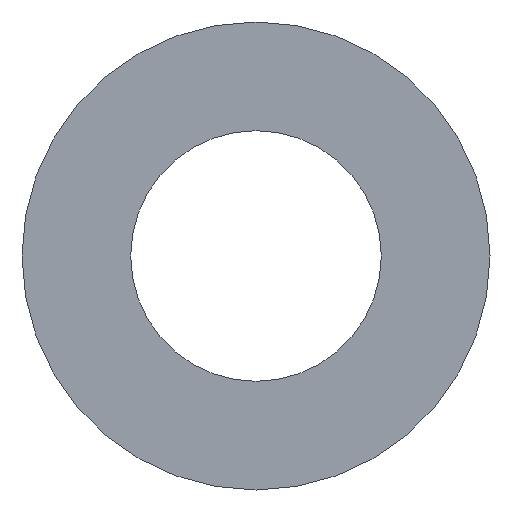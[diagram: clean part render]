
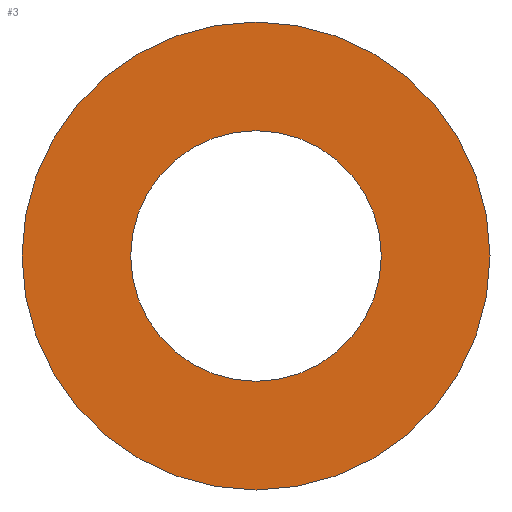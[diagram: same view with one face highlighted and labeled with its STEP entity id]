
A CAD part, front view. The second image highlights one B-rep face of the part: STEP entity #3.
In plain terms, the highlighted planar face has unit normal (0, -1, 0).
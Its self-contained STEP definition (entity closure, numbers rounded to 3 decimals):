
#2 = CIRCLE ( 'NONE', #204, 7.5 ) ;
#3 = ADVANCED_FACE ( 'NONE', ( #158, #90 ), #115, .T. ) ;
#16 = EDGE_CURVE ( 'NONE', #185, #211, #2, .T. ) ;
#20 = EDGE_CURVE ( 'NONE', #211, #185, #59, .T. ) ;
#30 = CARTESIAN_POINT ( 'NONE',  ( 0., -2.5, -14. ) ) ;
#40 = AXIS2_PLACEMENT_3D ( 'NONE', #223, #144, #51 ) ;
#46 = DIRECTION ( 'NONE',  ( 0., 0., 1. ) ) ;
#51 = DIRECTION ( 'NONE',  ( 0., 0., 1. ) ) ;
#53 = AXIS2_PLACEMENT_3D ( 'NONE', #119, #60, #46 ) ;
#55 = AXIS2_PLACEMENT_3D ( 'NONE', #149, #189, #96 ) ;
#58 = EDGE_CURVE ( 'NONE', #238, #84, #209, .T. ) ;
#59 = CIRCLE ( 'NONE', #53, 7.5 ) ;
#60 = DIRECTION ( 'NONE',  ( 0., 1., 0. ) ) ;
#82 = DIRECTION ( 'NONE',  ( 0., -1., 0. ) ) ;
#84 = VERTEX_POINT ( 'NONE', #88 ) ;
#86 = ORIENTED_EDGE ( 'NONE', *, *, #16, .T. ) ;
#88 = CARTESIAN_POINT ( 'NONE',  ( 0., -2.5, 14. ) ) ;
#90 = FACE_OUTER_BOUND ( 'NONE', #109, .T. ) ;
#96 = DIRECTION ( 'NONE',  ( 0., 0., 1. ) ) ;
#109 = EDGE_LOOP ( 'NONE', ( #136, #232 ) ) ;
#114 = CIRCLE ( 'NONE', #55, 14. ) ;
#115 = PLANE ( 'NONE',  #156 ) ;
#119 = CARTESIAN_POINT ( 'NONE',  ( 0., -2.5, 0. ) ) ;
#134 = DIRECTION ( 'NONE',  ( 0., 0., 1. ) ) ;
#136 = ORIENTED_EDGE ( 'NONE', *, *, #242, .F. ) ;
#144 = DIRECTION ( 'NONE',  ( 0., 1., 0. ) ) ;
#149 = CARTESIAN_POINT ( 'NONE',  ( 0., -2.5, 0. ) ) ;
#156 = AXIS2_PLACEMENT_3D ( 'NONE', #173, #82, #212 ) ;
#158 = FACE_BOUND ( 'NONE', #220, .T. ) ;
#170 = CARTESIAN_POINT ( 'NONE',  ( 0., -2.5, 0. ) ) ;
#173 = CARTESIAN_POINT ( 'NONE',  ( 0., -2.5, 14. ) ) ;
#181 = CARTESIAN_POINT ( 'NONE',  ( 0., -2.5, -7.5 ) ) ;
#183 = CARTESIAN_POINT ( 'NONE',  ( 0., -2.5, 7.5 ) ) ;
#185 = VERTEX_POINT ( 'NONE', #183 ) ;
#189 = DIRECTION ( 'NONE',  ( 0., 1., 0. ) ) ;
#196 = DIRECTION ( 'NONE',  ( 0., 1., 0. ) ) ;
#204 = AXIS2_PLACEMENT_3D ( 'NONE', #170, #196, #134 ) ;
#209 = CIRCLE ( 'NONE', #40, 14. ) ;
#211 = VERTEX_POINT ( 'NONE', #181 ) ;
#212 = DIRECTION ( 'NONE',  ( 0., 0., -1. ) ) ;
#220 = EDGE_LOOP ( 'NONE', ( #86, #230 ) ) ;
#223 = CARTESIAN_POINT ( 'NONE',  ( 0., -2.5, 0. ) ) ;
#230 = ORIENTED_EDGE ( 'NONE', *, *, #20, .T. ) ;
#232 = ORIENTED_EDGE ( 'NONE', *, *, #58, .F. ) ;
#238 = VERTEX_POINT ( 'NONE', #30 ) ;
#242 = EDGE_CURVE ( 'NONE', #84, #238, #114, .T. ) ;
